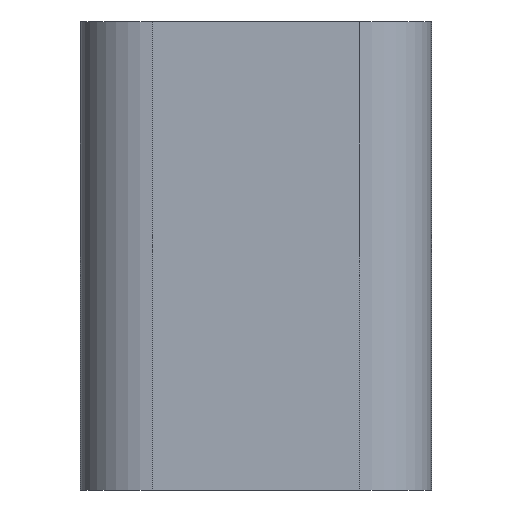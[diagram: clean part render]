
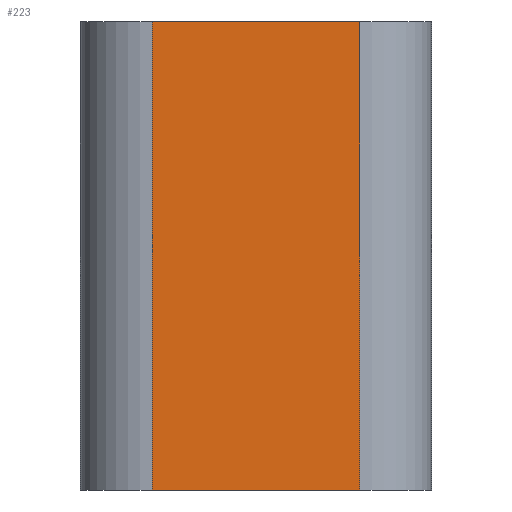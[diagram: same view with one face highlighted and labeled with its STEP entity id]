
A CAD part, front view. The second image highlights one B-rep face of the part: STEP entity #223.
In plain terms, the highlighted planar face has unit normal (0, -1, 0).
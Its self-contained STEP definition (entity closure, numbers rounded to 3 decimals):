
#44 = CYLINDRICAL_SURFACE('',#45,0.8);
#45 = AXIS2_PLACEMENT_3D('',#46,#47,#48);
#46 = CARTESIAN_POINT('',(-16.15,31.6,-21.7));
#47 = DIRECTION('',(0.,0.,-1.));
#48 = DIRECTION('',(-1.,0.,0.));
#72 = PLANE('',#73);
#73 = AXIS2_PLACEMENT_3D('',#74,#75,#76);
#74 = CARTESIAN_POINT('',(-15.,39.7,-16.5));
#75 = DIRECTION('',(0.,0.,1.));
#76 = DIRECTION('',(1.,0.,0.));
#126 = PLANE('',#127);
#127 = AXIS2_PLACEMENT_3D('',#128,#129,#130);
#128 = CARTESIAN_POINT('',(-15.,39.7,-21.7));
#129 = DIRECTION('',(0.,0.,1.));
#130 = DIRECTION('',(1.,0.,0.));
#141 = EDGE_CURVE('',#142,#144,#146,.T.);
#142 = VERTEX_POINT('',#143);
#143 = CARTESIAN_POINT('',(-16.15,30.8,-21.7));
#144 = VERTEX_POINT('',#145);
#145 = CARTESIAN_POINT('',(-16.15,30.8,-16.5));
#146 = SURFACE_CURVE('',#147,(#151,#158),.PCURVE_S1.);
#147 = LINE('',#148,#149);
#148 = CARTESIAN_POINT('',(-16.15,30.8,-21.7));
#149 = VECTOR('',#150,1.);
#150 = DIRECTION('',(0.,0.,1.));
#151 = PCURVE('',#44,#152);
#152 = DEFINITIONAL_REPRESENTATION('',(#153),#157);
#153 = LINE('',#154,#155);
#154 = CARTESIAN_POINT('',(4.712,0.));
#155 = VECTOR('',#156,1.);
#156 = DIRECTION('',(0.,-1.));
#157 = ( GEOMETRIC_REPRESENTATION_CONTEXT(2) 
PARAMETRIC_REPRESENTATION_CONTEXT() REPRESENTATION_CONTEXT('2D SPACE',''
  ) );
#158 = PCURVE('',#159,#164);
#159 = PLANE('',#160);
#160 = AXIS2_PLACEMENT_3D('',#161,#162,#163);
#161 = CARTESIAN_POINT('',(-16.15,30.8,-21.7));
#162 = DIRECTION('',(0.,1.,0.));
#163 = DIRECTION('',(1.,0.,0.));
#164 = DEFINITIONAL_REPRESENTATION('',(#165),#169);
#165 = LINE('',#166,#167);
#166 = CARTESIAN_POINT('',(0.,0.));
#167 = VECTOR('',#168,1.);
#168 = DIRECTION('',(0.,-1.));
#169 = ( GEOMETRIC_REPRESENTATION_CONTEXT(2) 
PARAMETRIC_REPRESENTATION_CONTEXT() REPRESENTATION_CONTEXT('2D SPACE',''
  ) );
#223 = ADVANCED_FACE('',(#224),#159,.F.);
#224 = FACE_BOUND('',#225,.F.);
#225 = EDGE_LOOP('',(#226,#227,#250,#278));
#226 = ORIENTED_EDGE('',*,*,#141,.T.);
#227 = ORIENTED_EDGE('',*,*,#228,.T.);
#228 = EDGE_CURVE('',#144,#229,#231,.T.);
#229 = VERTEX_POINT('',#230);
#230 = CARTESIAN_POINT('',(-13.85,30.8,-16.5));
#231 = SURFACE_CURVE('',#232,(#236,#243),.PCURVE_S1.);
#232 = LINE('',#233,#234);
#233 = CARTESIAN_POINT('',(-15.,30.8,-16.5));
#234 = VECTOR('',#235,1.);
#235 = DIRECTION('',(1.,0.,0.));
#236 = PCURVE('',#159,#237);
#237 = DEFINITIONAL_REPRESENTATION('',(#238),#242);
#238 = LINE('',#239,#240);
#239 = CARTESIAN_POINT('',(1.15,-5.2));
#240 = VECTOR('',#241,1.);
#241 = DIRECTION('',(1.,0.));
#242 = ( GEOMETRIC_REPRESENTATION_CONTEXT(2) 
PARAMETRIC_REPRESENTATION_CONTEXT() REPRESENTATION_CONTEXT('2D SPACE',''
  ) );
#243 = PCURVE('',#72,#244);
#244 = DEFINITIONAL_REPRESENTATION('',(#245),#249);
#245 = LINE('',#246,#247);
#246 = CARTESIAN_POINT('',(0.,-8.9));
#247 = VECTOR('',#248,1.);
#248 = DIRECTION('',(1.,0.));
#249 = ( GEOMETRIC_REPRESENTATION_CONTEXT(2) 
PARAMETRIC_REPRESENTATION_CONTEXT() REPRESENTATION_CONTEXT('2D SPACE',''
  ) );
#250 = ORIENTED_EDGE('',*,*,#251,.F.);
#251 = EDGE_CURVE('',#252,#229,#254,.T.);
#252 = VERTEX_POINT('',#253);
#253 = CARTESIAN_POINT('',(-13.85,30.8,-21.7));
#254 = SURFACE_CURVE('',#255,(#259,#266),.PCURVE_S1.);
#255 = LINE('',#256,#257);
#256 = CARTESIAN_POINT('',(-13.85,30.8,-21.7));
#257 = VECTOR('',#258,1.);
#258 = DIRECTION('',(0.,0.,1.));
#259 = PCURVE('',#159,#260);
#260 = DEFINITIONAL_REPRESENTATION('',(#261),#265);
#261 = LINE('',#262,#263);
#262 = CARTESIAN_POINT('',(2.3,0.));
#263 = VECTOR('',#264,1.);
#264 = DIRECTION('',(0.,-1.));
#265 = ( GEOMETRIC_REPRESENTATION_CONTEXT(2) 
PARAMETRIC_REPRESENTATION_CONTEXT() REPRESENTATION_CONTEXT('2D SPACE',''
  ) );
#266 = PCURVE('',#267,#272);
#267 = CYLINDRICAL_SURFACE('',#268,0.8);
#268 = AXIS2_PLACEMENT_3D('',#269,#270,#271);
#269 = CARTESIAN_POINT('',(-13.85,31.6,-21.7));
#270 = DIRECTION('',(0.,0.,-1.));
#271 = DIRECTION('',(-1.,0.,0.));
#272 = DEFINITIONAL_REPRESENTATION('',(#273),#277);
#273 = LINE('',#274,#275);
#274 = CARTESIAN_POINT('',(4.712,0.));
#275 = VECTOR('',#276,1.);
#276 = DIRECTION('',(0.,-1.));
#277 = ( GEOMETRIC_REPRESENTATION_CONTEXT(2) 
PARAMETRIC_REPRESENTATION_CONTEXT() REPRESENTATION_CONTEXT('2D SPACE',''
  ) );
#278 = ORIENTED_EDGE('',*,*,#279,.F.);
#279 = EDGE_CURVE('',#142,#252,#280,.T.);
#280 = SURFACE_CURVE('',#281,(#285,#292),.PCURVE_S1.);
#281 = LINE('',#282,#283);
#282 = CARTESIAN_POINT('',(-15.,30.8,-21.7));
#283 = VECTOR('',#284,1.);
#284 = DIRECTION('',(1.,0.,0.));
#285 = PCURVE('',#159,#286);
#286 = DEFINITIONAL_REPRESENTATION('',(#287),#291);
#287 = LINE('',#288,#289);
#288 = CARTESIAN_POINT('',(1.15,0.));
#289 = VECTOR('',#290,1.);
#290 = DIRECTION('',(1.,0.));
#291 = ( GEOMETRIC_REPRESENTATION_CONTEXT(2) 
PARAMETRIC_REPRESENTATION_CONTEXT() REPRESENTATION_CONTEXT('2D SPACE',''
  ) );
#292 = PCURVE('',#126,#293);
#293 = DEFINITIONAL_REPRESENTATION('',(#294),#298);
#294 = LINE('',#295,#296);
#295 = CARTESIAN_POINT('',(0.,-8.9));
#296 = VECTOR('',#297,1.);
#297 = DIRECTION('',(1.,0.));
#298 = ( GEOMETRIC_REPRESENTATION_CONTEXT(2) 
PARAMETRIC_REPRESENTATION_CONTEXT() REPRESENTATION_CONTEXT('2D SPACE',''
  ) );
